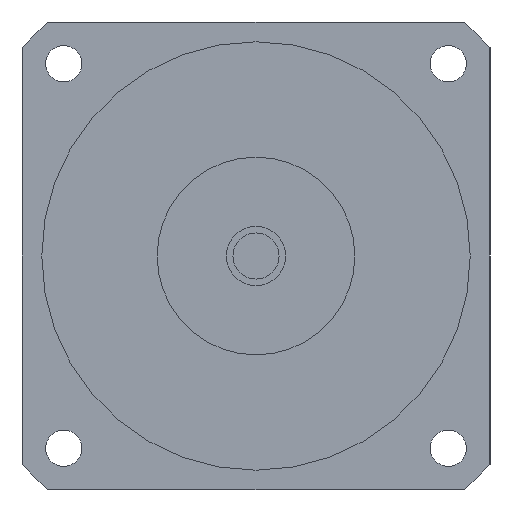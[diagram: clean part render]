
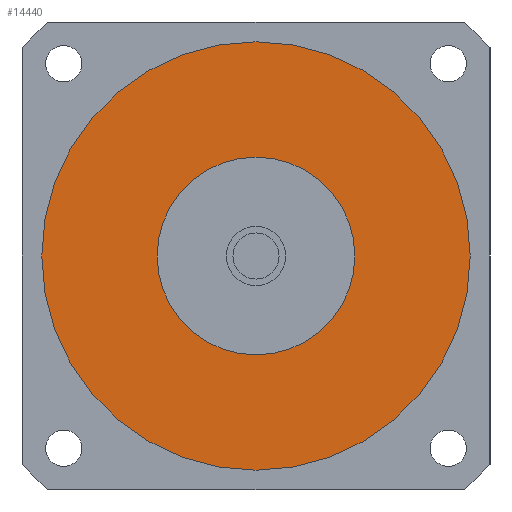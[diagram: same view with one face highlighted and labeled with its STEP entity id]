
A CAD part, left-side view. The second image highlights one B-rep face of the part: STEP entity #14440.
In plain terms, the highlighted planar face has unit normal (-1, 0, 0) as drawn and (0, 0, -1) by its records, which use the part's own axes.
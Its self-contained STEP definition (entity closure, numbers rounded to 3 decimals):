
#8930=CARTESIAN_POINT('',(30.,0.,-42.5));
#8940=VERTEX_POINT('',#8930);
#8970=CARTESIAN_POINT('',(0.,0.,
-42.5));
#8980=DIRECTION('',(0.,0.,1.));
#8990=DIRECTION('',(0.,1.,0.));
#9000=AXIS2_PLACEMENT_3D('',#8970,#8980,#8990);
#9010=CIRCLE('',#9000,30.);
#9020=CARTESIAN_POINT('',(0.,30.,-42.5));
#9030=VERTEX_POINT('',#9020);
#9040=EDGE_CURVE('',#8940,#9030,#9010,.T.);
#9060=CARTESIAN_POINT('',(-30.,0.,-42.5));
#9070=VERTEX_POINT('',#9060);
#9080=EDGE_CURVE('',#9030,#9070,#9010,.T.);
#13990=CARTESIAN_POINT('',(65.,0.,-42.5));
#14000=VERTEX_POINT('',#13990);
#14090=CARTESIAN_POINT('',(-65.,0.,-42.5));
#14100=VERTEX_POINT('',#14090);
#14130=CARTESIAN_POINT('',(0.,0.,
-42.5));
#14140=DIRECTION('',(0.,0.,1.));
#14150=DIRECTION('',(0.,1.,0.));
#14160=AXIS2_PLACEMENT_3D('',#14130,#14140,#14150);
#14170=CIRCLE('',#14160,65.);
#14180=CARTESIAN_POINT('',(0.,65.,-42.5));
#14190=VERTEX_POINT('',#14180);
#14200=EDGE_CURVE('',#14190,#14100,#14170,.T.);
#14220=EDGE_CURVE('',#14000,#14190,#14170,.T.);
#14270=CARTESIAN_POINT('',(0.,0.,
-42.5));
#14280=DIRECTION('',(0.,0.,1.));
#14290=DIRECTION('',(-1.,0.,0.));
#14300=AXIS2_PLACEMENT_3D('',#14270,#14280,#14290);
#14310=PLANE('',#14300);
#14320=ORIENTED_EDGE('',*,*,#14200,.F.);
#14330=EDGE_CURVE('',#14100,#14000,#14170,.T.);
#14340=ORIENTED_EDGE('',*,*,#14330,.F.);
#14350=ORIENTED_EDGE('',*,*,#14220,.F.);
#14360=EDGE_LOOP('',(#14350,#14340,#14320));
#14370=FACE_OUTER_BOUND('',#14360,.T.);
#14380=EDGE_CURVE('',#9070,#8940,#9010,.T.);
#14390=ORIENTED_EDGE('',*,*,#14380,.T.);
#14400=ORIENTED_EDGE('',*,*,#9080,.T.);
#14410=ORIENTED_EDGE('',*,*,#9040,.T.);
#14420=EDGE_LOOP('',(#14410,#14400,#14390));
#14430=FACE_BOUND('',#14420,.T.);
#14440=ADVANCED_FACE('',(#14370,#14430),#14310,.F.);
